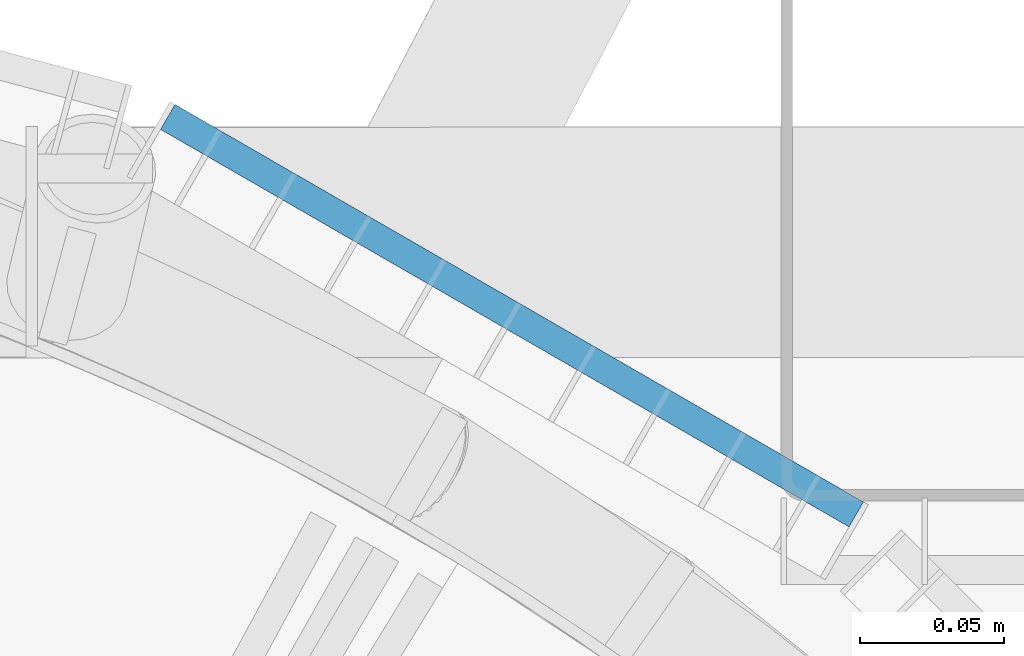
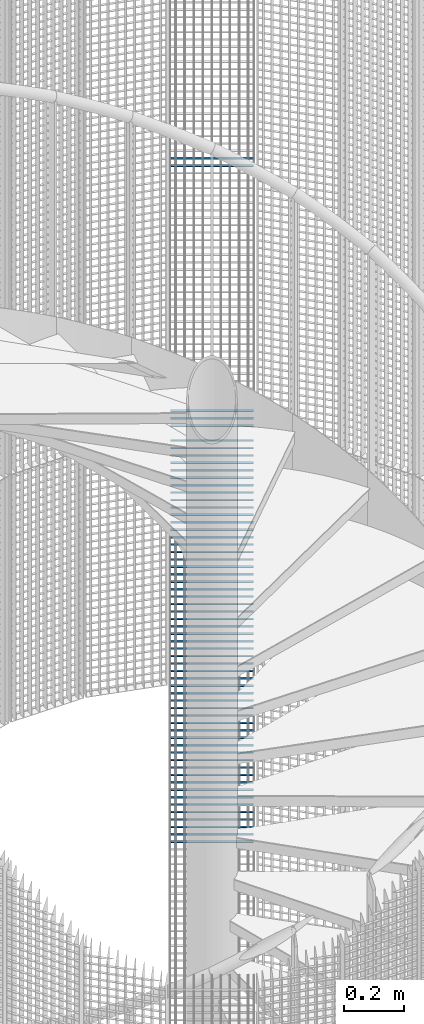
# One storey, part 320 of 1148: 60 beams, 2 elements without a shape of their own.
"""IFC2X3 building model written with IfcOpenShell, lengths in millimetres."""

from ifc_helpers import new_model, si_unit, frame, origin_with_axes, origin_2d_with_axis, place, context, subcontext, project, spatial, rectangle, extrude, material, type_object, element, aggregate, save


model = new_model("IFC2X3")

# Units and contexts
model_context = context("Model", 3, precision=1e-05, world=origin_with_axes())
body_context = subcontext(model_context, "Body", "Model", "MODEL_VIEW")
ifc_project = project(units=[si_unit("LENGTHUNIT", "METRE", prefix="MILLI"), si_unit("AREAUNIT", "SQUARE_METRE"), si_unit("VOLUMEUNIT", "CUBIC_METRE"), si_unit("MASSUNIT", "GRAM", prefix="KILO"), si_unit("TIMEUNIT", "SECOND"), si_unit("PLANEANGLEUNIT", "RADIAN"), si_unit("SOLIDANGLEUNIT", "STERADIAN"), si_unit("THERMODYNAMICTEMPERATUREUNIT", "DEGREE_CELSIUS"), si_unit("LUMINOUSINTENSITYUNIT", "LUMEN")], contexts=[model_context])

# Site, building, storey
site_placement = place(None, origin_with_axes())
site = spatial("IfcSite", under=ifc_project, at=site_placement, Name="Undefined", CompositionType="ELEMENT")
building_placement = place(site_placement, origin_with_axes())
building = spatial("IfcBuilding", under=site, at=building_placement, Name="Undefined", CompositionType="ELEMENT")
storey_placement = place(building_placement, origin_with_axes())
storey = spatial("IfcBuildingStorey", under=building, at=storey_placement, Name="Undefined", CompositionType="ELEMENT", Elevation=0.0)

# Assembly, beams
assembly_1_placement = place(storey_placement, origin_with_axes())
assembly_1 = element("IfcElementAssembly", 1, at=assembly_1_placement, inside=storey, Name="BORDURE", AssemblyPlace="NOTDEFINED", PredefinedType="NOTDEFINED")
ifc_material = material(Name="STEEL/S235JR")
beam_type = type_object("IfcBeamType", Name="PL2*10", PredefinedType="NOTDEFINED")
beam_1_placement = place(assembly_1_placement, frame((676.248044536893, 895.303964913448, 4080.0), z_axis=(0.49999999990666, 0.866025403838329, 0.0), x_axis=(-0.866025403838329, 0.499999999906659, 0.0)))
beam_1 = element("IfcBeam", 2, at=beam_1_placement, type_object=beam_type, material=ifc_material, Name="ENTRETOISE", context=body_context, shape_type="SweptSolid", body=[
    extrude(rectangle(XDim=2.0, YDim=10.0, at=origin_2d_with_axis()), frame((275.999999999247, 9.09494701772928e-13, 1.53210777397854e-14), z_axis=(-1.0, 0.0, 0.0), x_axis=(0.0, -1.0, 0.0)), (0.0, 0.0, 1.0), 276.0),
])
beam_2_placement = place(assembly_1_placement, frame((676.24804453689, 895.30396491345, 3090.0), z_axis=(0.49999999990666, 0.866025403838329, 0.0), x_axis=(-0.866025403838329, 0.499999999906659, 0.0)))
beam_2 = element("IfcBeam", 3, at=beam_2_placement, type_object=beam_type, material=ifc_material, Name="ENTRETOISE", context=body_context, shape_type="SweptSolid", body=[
    extrude(rectangle(XDim=2.0, YDim=10.0, at=origin_2d_with_axis()), frame((275.999999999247, 9.09494701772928e-13, 1.53210777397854e-14), z_axis=(-1.0, 0.0, 0.0), x_axis=(0.0, -1.0, 0.0)), (0.0, 0.0, 1.0), 276.0),
])
beam_3_placement = place(assembly_1_placement, frame((676.24804453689, 895.30396491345, 3060.0), z_axis=(0.49999999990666, 0.866025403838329, 0.0), x_axis=(-0.866025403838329, 0.499999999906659, 0.0)))
beam_3 = element("IfcBeam", 4, at=beam_3_placement, type_object=beam_type, material=ifc_material, Name="ENTRETOISE", context=body_context, shape_type="SweptSolid", body=[
    extrude(rectangle(XDim=2.0, YDim=10.0, at=origin_2d_with_axis()), frame((275.999999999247, 9.09494701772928e-13, 1.53210777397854e-14), z_axis=(-1.0, 0.0, 0.0), x_axis=(0.0, -1.0, 0.0)), (0.0, 0.0, 1.0), 276.0),
])
beam_4_placement = place(assembly_1_placement, frame((676.248044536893, 895.303964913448, 4110.0), z_axis=(0.49999999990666, 0.866025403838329, 0.0), x_axis=(-0.866025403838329, 0.499999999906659, 0.0)))
beam_4 = element("IfcBeam", 5, at=beam_4_placement, type_object=beam_type, material=ifc_material, Name="ENTRETOISE", context=body_context, shape_type="SweptSolid", body=[
    extrude(rectangle(XDim=2.0, YDim=10.0, at=origin_2d_with_axis()), frame((275.999999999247, 9.09494701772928e-13, 1.53210777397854e-14), z_axis=(-1.0, 0.0, 0.0), x_axis=(0.0, -1.0, 0.0)), (0.0, 0.0, 1.0), 276.0),
])
beam_5_placement = place(assembly_1_placement, frame((676.248044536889, 895.30396491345, 3030.0), z_axis=(0.49999999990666, 0.866025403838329, 0.0), x_axis=(-0.866025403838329, 0.499999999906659, 0.0)))
beam_5 = element("IfcBeam", 6, at=beam_5_placement, type_object=beam_type, material=ifc_material, Name="ENTRETOISE", context=body_context, shape_type="SweptSolid", body=[
    extrude(rectangle(XDim=2.0, YDim=10.0, at=origin_2d_with_axis()), frame((275.999999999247, 9.09494701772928e-13, 1.53210777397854e-14), z_axis=(-1.0, 0.0, 0.0), x_axis=(0.0, -1.0, 0.0)), (0.0, 0.0, 1.0), 276.0),
])
aggregate(assembly_1, [beam_1, beam_2, beam_3, beam_4, beam_5])

assembly_2_placement = place(storey_placement, origin_with_axes())
assembly_2 = element("IfcElementAssembly", 7, at=assembly_2_placement, inside=storey, Name="BORDURE", AssemblyPlace="NOTDEFINED", PredefinedType="NOTDEFINED")
beam_6_placement = place(assembly_2_placement, frame((676.248044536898, 895.303964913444, 2970.0), z_axis=(0.49999999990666, 0.866025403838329, 0.0), x_axis=(-0.866025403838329, 0.499999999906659, 0.0)))
beam_6 = element("IfcBeam", 8, at=beam_6_placement, type_object=beam_type, material=ifc_material, Name="ENTRETOISE", context=body_context, shape_type="SweptSolid", body=[
    extrude(rectangle(XDim=2.0, YDim=10.0, at=origin_2d_with_axis()), frame((275.999999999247, 9.09494701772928e-13, 1.53210777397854e-14), z_axis=(-1.0, 0.0, 0.0), x_axis=(0.0, -1.0, 0.0)), (0.0, 0.0, 1.0), 276.0),
])
beam_7_placement = place(assembly_2_placement, frame((676.248044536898, 895.303964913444, 2940.0), z_axis=(0.49999999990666, 0.866025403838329, 0.0), x_axis=(-0.866025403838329, 0.499999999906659, 0.0)))
beam_7 = element("IfcBeam", 9, at=beam_7_placement, type_object=beam_type, material=ifc_material, Name="ENTRETOISE", context=body_context, shape_type="SweptSolid", body=[
    extrude(rectangle(XDim=2.0, YDim=10.0, at=origin_2d_with_axis()), frame((275.999999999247, 9.09494701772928e-13, 1.53210777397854e-14), z_axis=(-1.0, 0.0, 0.0), x_axis=(0.0, -1.0, 0.0)), (0.0, 0.0, 1.0), 276.0),
])
beam_8_placement = place(assembly_2_placement, frame((676.248044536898, 895.303964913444, 2910.0), z_axis=(0.49999999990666, 0.866025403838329, 0.0), x_axis=(-0.866025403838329, 0.499999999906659, 0.0)))
beam_8 = element("IfcBeam", 10, at=beam_8_placement, type_object=beam_type, material=ifc_material, Name="ENTRETOISE", context=body_context, shape_type="SweptSolid", body=[
    extrude(rectangle(XDim=2.0, YDim=10.0, at=origin_2d_with_axis()), frame((275.999999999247, 9.09494701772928e-13, 1.53210777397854e-14), z_axis=(-1.0, 0.0, 0.0), x_axis=(0.0, -1.0, 0.0)), (0.0, 0.0, 1.0), 276.0),
])
beam_9_placement = place(assembly_2_placement, frame((676.248044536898, 895.303964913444, 2880.0), z_axis=(0.49999999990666, 0.866025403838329, 0.0), x_axis=(-0.866025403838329, 0.499999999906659, 0.0)))
beam_9 = element("IfcBeam", 11, at=beam_9_placement, type_object=beam_type, material=ifc_material, Name="ENTRETOISE", context=body_context, shape_type="SweptSolid", body=[
    extrude(rectangle(XDim=2.0, YDim=10.0, at=origin_2d_with_axis()), frame((275.999999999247, 9.09494701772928e-13, 1.53210777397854e-14), z_axis=(-1.0, 0.0, 0.0), x_axis=(0.0, -1.0, 0.0)), (0.0, 0.0, 1.0), 276.0),
])
beam_10_placement = place(assembly_2_placement, frame((676.248044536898, 895.303964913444, 2850.0), z_axis=(0.49999999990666, 0.866025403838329, 0.0), x_axis=(-0.866025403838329, 0.499999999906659, 0.0)))
beam_10 = element("IfcBeam", 12, at=beam_10_placement, type_object=beam_type, material=ifc_material, Name="ENTRETOISE", context=body_context, shape_type="SweptSolid", body=[
    extrude(rectangle(XDim=2.0, YDim=10.0, at=origin_2d_with_axis()), frame((275.999999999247, 9.09494701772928e-13, 1.53210777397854e-14), z_axis=(-1.0, 0.0, 0.0), x_axis=(0.0, -1.0, 0.0)), (0.0, 0.0, 1.0), 276.0),
])
beam_11_placement = place(assembly_2_placement, frame((676.248044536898, 895.303964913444, 2820.0), z_axis=(0.49999999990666, 0.866025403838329, 0.0), x_axis=(-0.866025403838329, 0.499999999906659, 0.0)))
beam_11 = element("IfcBeam", 13, at=beam_11_placement, type_object=beam_type, material=ifc_material, Name="ENTRETOISE", context=body_context, shape_type="SweptSolid", body=[
    extrude(rectangle(XDim=2.0, YDim=10.0, at=origin_2d_with_axis()), frame((275.999999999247, 9.09494701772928e-13, 1.53210777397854e-14), z_axis=(-1.0, 0.0, 0.0), x_axis=(0.0, -1.0, 0.0)), (0.0, 0.0, 1.0), 276.0),
])
beam_12_placement = place(assembly_2_placement, frame((676.248044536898, 895.303964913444, 2790.0), z_axis=(0.49999999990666, 0.866025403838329, 0.0), x_axis=(-0.866025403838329, 0.499999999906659, 0.0)))
beam_12 = element("IfcBeam", 14, at=beam_12_placement, type_object=beam_type, material=ifc_material, Name="ENTRETOISE", context=body_context, shape_type="SweptSolid", body=[
    extrude(rectangle(XDim=2.0, YDim=10.0, at=origin_2d_with_axis()), frame((275.999999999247, 9.09494701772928e-13, 1.53210777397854e-14), z_axis=(-1.0, 0.0, 0.0), x_axis=(0.0, -1.0, 0.0)), (0.0, 0.0, 1.0), 276.0),
])
beam_13_placement = place(assembly_2_placement, frame((676.248044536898, 895.303964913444, 2760.0), z_axis=(0.49999999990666, 0.866025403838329, 0.0), x_axis=(-0.866025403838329, 0.499999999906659, 0.0)))
beam_13 = element("IfcBeam", 15, at=beam_13_placement, type_object=beam_type, material=ifc_material, Name="ENTRETOISE", context=body_context, shape_type="SweptSolid", body=[
    extrude(rectangle(XDim=2.0, YDim=10.0, at=origin_2d_with_axis()), frame((275.999999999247, 9.09494701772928e-13, 1.53210777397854e-14), z_axis=(-1.0, 0.0, 0.0), x_axis=(0.0, -1.0, 0.0)), (0.0, 0.0, 1.0), 276.0),
])
beam_14_placement = place(assembly_2_placement, frame((676.248044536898, 895.303964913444, 2730.0), z_axis=(0.49999999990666, 0.866025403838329, 0.0), x_axis=(-0.866025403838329, 0.499999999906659, 0.0)))
beam_14 = element("IfcBeam", 16, at=beam_14_placement, type_object=beam_type, material=ifc_material, Name="ENTRETOISE", context=body_context, shape_type="SweptSolid", body=[
    extrude(rectangle(XDim=2.0, YDim=10.0, at=origin_2d_with_axis()), frame((275.999999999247, 9.09494701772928e-13, 1.53210777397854e-14), z_axis=(-1.0, 0.0, 0.0), x_axis=(0.0, -1.0, 0.0)), (0.0, 0.0, 1.0), 276.0),
])
beam_15_placement = place(assembly_2_placement, frame((676.248044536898, 895.303964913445, 2700.0), z_axis=(0.49999999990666, 0.866025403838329, 0.0), x_axis=(-0.866025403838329, 0.499999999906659, 0.0)))
beam_15 = element("IfcBeam", 17, at=beam_15_placement, type_object=beam_type, material=ifc_material, Name="ENTRETOISE", context=body_context, shape_type="SweptSolid", body=[
    extrude(rectangle(XDim=2.0, YDim=10.0, at=origin_2d_with_axis()), frame((275.999999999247, 9.09494701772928e-13, 1.53210777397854e-14), z_axis=(-1.0, 0.0, 0.0), x_axis=(0.0, -1.0, 0.0)), (0.0, 0.0, 1.0), 276.0),
])
beam_16_placement = place(assembly_2_placement, frame((676.248044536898, 895.303964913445, 2670.0), z_axis=(0.49999999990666, 0.866025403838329, 0.0), x_axis=(-0.866025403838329, 0.499999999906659, 0.0)))
beam_16 = element("IfcBeam", 18, at=beam_16_placement, type_object=beam_type, material=ifc_material, Name="ENTRETOISE", context=body_context, shape_type="SweptSolid", body=[
    extrude(rectangle(XDim=2.0, YDim=10.0, at=origin_2d_with_axis()), frame((275.999999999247, 9.09494701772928e-13, 1.53210777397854e-14), z_axis=(-1.0, 0.0, 0.0), x_axis=(0.0, -1.0, 0.0)), (0.0, 0.0, 1.0), 276.0),
])
beam_17_placement = place(assembly_2_placement, frame((676.248044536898, 895.303964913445, 2640.0), z_axis=(0.49999999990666, 0.866025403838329, 0.0), x_axis=(-0.866025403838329, 0.499999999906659, 0.0)))
beam_17 = element("IfcBeam", 19, at=beam_17_placement, type_object=beam_type, material=ifc_material, Name="ENTRETOISE", context=body_context, shape_type="SweptSolid", body=[
    extrude(rectangle(XDim=2.0, YDim=10.0, at=origin_2d_with_axis()), frame((275.999999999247, 9.09494701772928e-13, 1.53210777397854e-14), z_axis=(-1.0, 0.0, 0.0), x_axis=(0.0, -1.0, 0.0)), (0.0, 0.0, 1.0), 276.0),
])
beam_18_placement = place(assembly_2_placement, frame((676.248044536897, 895.303964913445, 2610.0), z_axis=(0.49999999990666, 0.866025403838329, 0.0), x_axis=(-0.866025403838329, 0.499999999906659, 0.0)))
beam_18 = element("IfcBeam", 20, at=beam_18_placement, type_object=beam_type, material=ifc_material, Name="ENTRETOISE", context=body_context, shape_type="SweptSolid", body=[
    extrude(rectangle(XDim=2.0, YDim=10.0, at=origin_2d_with_axis()), frame((275.999999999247, 9.09494701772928e-13, 1.53210777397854e-14), z_axis=(-1.0, 0.0, 0.0), x_axis=(0.0, -1.0, 0.0)), (0.0, 0.0, 1.0), 276.0),
])
beam_19_placement = place(assembly_2_placement, frame((676.248044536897, 895.303964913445, 2580.0), z_axis=(0.49999999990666, 0.866025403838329, 0.0), x_axis=(-0.866025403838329, 0.499999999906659, 0.0)))
beam_19 = element("IfcBeam", 21, at=beam_19_placement, type_object=beam_type, material=ifc_material, Name="ENTRETOISE", context=body_context, shape_type="SweptSolid", body=[
    extrude(rectangle(XDim=2.0, YDim=10.0, at=origin_2d_with_axis()), frame((275.999999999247, 9.09494701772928e-13, 1.53210777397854e-14), z_axis=(-1.0, 0.0, 0.0), x_axis=(0.0, -1.0, 0.0)), (0.0, 0.0, 1.0), 276.0),
])
beam_20_placement = place(assembly_2_placement, frame((676.248044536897, 895.303964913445, 2550.0), z_axis=(0.49999999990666, 0.866025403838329, 0.0), x_axis=(-0.866025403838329, 0.499999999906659, 0.0)))
beam_20 = element("IfcBeam", 22, at=beam_20_placement, type_object=beam_type, material=ifc_material, Name="ENTRETOISE", context=body_context, shape_type="SweptSolid", body=[
    extrude(rectangle(XDim=2.0, YDim=10.0, at=origin_2d_with_axis()), frame((275.999999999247, 9.09494701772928e-13, 1.53210777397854e-14), z_axis=(-1.0, 0.0, 0.0), x_axis=(0.0, -1.0, 0.0)), (0.0, 0.0, 1.0), 276.0),
])
beam_21_placement = place(assembly_2_placement, frame((676.248044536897, 895.303964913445, 2520.0), z_axis=(0.49999999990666, 0.866025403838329, 0.0), x_axis=(-0.866025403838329, 0.499999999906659, 0.0)))
beam_21 = element("IfcBeam", 23, at=beam_21_placement, type_object=beam_type, material=ifc_material, Name="ENTRETOISE", context=body_context, shape_type="SweptSolid", body=[
    extrude(rectangle(XDim=2.0, YDim=10.0, at=origin_2d_with_axis()), frame((275.999999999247, 9.09494701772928e-13, 1.53210777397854e-14), z_axis=(-1.0, 0.0, 0.0), x_axis=(0.0, -1.0, 0.0)), (0.0, 0.0, 1.0), 276.0),
])
beam_22_placement = place(assembly_2_placement, frame((676.248044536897, 895.303964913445, 2490.0), z_axis=(0.49999999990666, 0.866025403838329, 0.0), x_axis=(-0.866025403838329, 0.499999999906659, 0.0)))
beam_22 = element("IfcBeam", 24, at=beam_22_placement, type_object=beam_type, material=ifc_material, Name="ENTRETOISE", context=body_context, shape_type="SweptSolid", body=[
    extrude(rectangle(XDim=2.0, YDim=10.0, at=origin_2d_with_axis()), frame((275.999999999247, 9.09494701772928e-13, 1.53210777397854e-14), z_axis=(-1.0, 0.0, 0.0), x_axis=(0.0, -1.0, 0.0)), (0.0, 0.0, 1.0), 276.0),
])
beam_23_placement = place(assembly_2_placement, frame((676.248044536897, 895.303964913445, 2460.0), z_axis=(0.49999999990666, 0.866025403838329, 0.0), x_axis=(-0.866025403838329, 0.499999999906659, 0.0)))
beam_23 = element("IfcBeam", 25, at=beam_23_placement, type_object=beam_type, material=ifc_material, Name="ENTRETOISE", context=body_context, shape_type="SweptSolid", body=[
    extrude(rectangle(XDim=2.0, YDim=10.0, at=origin_2d_with_axis()), frame((275.999999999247, 9.09494701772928e-13, 1.53210777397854e-14), z_axis=(-1.0, 0.0, 0.0), x_axis=(0.0, -1.0, 0.0)), (0.0, 0.0, 1.0), 276.0),
])
beam_24_placement = place(assembly_2_placement, frame((676.248044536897, 895.303964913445, 2430.0), z_axis=(0.49999999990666, 0.866025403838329, 0.0), x_axis=(-0.866025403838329, 0.499999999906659, 0.0)))
beam_24 = element("IfcBeam", 26, at=beam_24_placement, type_object=beam_type, material=ifc_material, Name="ENTRETOISE", context=body_context, shape_type="SweptSolid", body=[
    extrude(rectangle(XDim=2.0, YDim=10.0, at=origin_2d_with_axis()), frame((275.999999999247, 9.09494701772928e-13, 1.53210777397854e-14), z_axis=(-1.0, 0.0, 0.0), x_axis=(0.0, -1.0, 0.0)), (0.0, 0.0, 1.0), 276.0),
])
beam_25_placement = place(assembly_2_placement, frame((676.248044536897, 895.303964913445, 2400.0), z_axis=(0.49999999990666, 0.866025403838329, 0.0), x_axis=(-0.866025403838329, 0.499999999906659, 0.0)))
beam_25 = element("IfcBeam", 27, at=beam_25_placement, type_object=beam_type, material=ifc_material, Name="ENTRETOISE", context=body_context, shape_type="SweptSolid", body=[
    extrude(rectangle(XDim=2.0, YDim=10.0, at=origin_2d_with_axis()), frame((275.999999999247, 9.09494701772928e-13, 1.53210777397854e-14), z_axis=(-1.0, 0.0, 0.0), x_axis=(0.0, -1.0, 0.0)), (0.0, 0.0, 1.0), 276.0),
])
beam_26_placement = place(assembly_2_placement, frame((676.248044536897, 895.303964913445, 2370.0), z_axis=(0.49999999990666, 0.866025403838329, 0.0), x_axis=(-0.866025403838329, 0.499999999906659, 0.0)))
beam_26 = element("IfcBeam", 28, at=beam_26_placement, type_object=beam_type, material=ifc_material, Name="ENTRETOISE", context=body_context, shape_type="SweptSolid", body=[
    extrude(rectangle(XDim=2.0, YDim=10.0, at=origin_2d_with_axis()), frame((275.999999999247, 9.09494701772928e-13, 1.53210777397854e-14), z_axis=(-1.0, 0.0, 0.0), x_axis=(0.0, -1.0, 0.0)), (0.0, 0.0, 1.0), 276.0),
])
beam_27_placement = place(assembly_2_placement, frame((676.248044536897, 895.303964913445, 2340.0), z_axis=(0.49999999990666, 0.866025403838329, 0.0), x_axis=(-0.866025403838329, 0.499999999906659, 0.0)))
beam_27 = element("IfcBeam", 29, at=beam_27_placement, type_object=beam_type, material=ifc_material, Name="ENTRETOISE", context=body_context, shape_type="SweptSolid", body=[
    extrude(rectangle(XDim=2.0, YDim=10.0, at=origin_2d_with_axis()), frame((275.999999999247, 9.09494701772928e-13, 1.53210777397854e-14), z_axis=(-1.0, 0.0, 0.0), x_axis=(0.0, -1.0, 0.0)), (0.0, 0.0, 1.0), 276.0),
])
beam_28_placement = place(assembly_2_placement, frame((676.248044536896, 895.303964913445, 2310.0), z_axis=(0.49999999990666, 0.866025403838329, 0.0), x_axis=(-0.866025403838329, 0.499999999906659, 0.0)))
beam_28 = element("IfcBeam", 30, at=beam_28_placement, type_object=beam_type, material=ifc_material, Name="ENTRETOISE", context=body_context, shape_type="SweptSolid", body=[
    extrude(rectangle(XDim=2.0, YDim=10.0, at=origin_2d_with_axis()), frame((275.999999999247, 9.09494701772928e-13, 1.53210777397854e-14), z_axis=(-1.0, 0.0, 0.0), x_axis=(0.0, -1.0, 0.0)), (0.0, 0.0, 1.0), 276.0),
])
beam_29_placement = place(assembly_2_placement, frame((676.248044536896, 895.303964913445, 2280.0), z_axis=(0.49999999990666, 0.866025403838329, 0.0), x_axis=(-0.866025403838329, 0.499999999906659, 0.0)))
beam_29 = element("IfcBeam", 31, at=beam_29_placement, type_object=beam_type, material=ifc_material, Name="ENTRETOISE", context=body_context, shape_type="SweptSolid", body=[
    extrude(rectangle(XDim=2.0, YDim=10.0, at=origin_2d_with_axis()), frame((275.999999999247, 9.09494701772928e-13, 1.53210777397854e-14), z_axis=(-1.0, 0.0, 0.0), x_axis=(0.0, -1.0, 0.0)), (0.0, 0.0, 1.0), 276.0),
])
beam_30_placement = place(assembly_2_placement, frame((676.248044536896, 895.303964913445, 2250.0), z_axis=(0.49999999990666, 0.866025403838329, 0.0), x_axis=(-0.866025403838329, 0.499999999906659, 0.0)))
beam_30 = element("IfcBeam", 32, at=beam_30_placement, type_object=beam_type, material=ifc_material, Name="ENTRETOISE", context=body_context, shape_type="SweptSolid", body=[
    extrude(rectangle(XDim=2.0, YDim=10.0, at=origin_2d_with_axis()), frame((275.999999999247, 9.09494701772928e-13, 1.53210777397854e-14), z_axis=(-1.0, 0.0, 0.0), x_axis=(0.0, -1.0, 0.0)), (0.0, 0.0, 1.0), 276.0),
])
beam_31_placement = place(assembly_2_placement, frame((676.248044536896, 895.303964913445, 2220.0), z_axis=(0.49999999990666, 0.866025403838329, 0.0), x_axis=(-0.866025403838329, 0.499999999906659, 0.0)))
beam_31 = element("IfcBeam", 33, at=beam_31_placement, type_object=beam_type, material=ifc_material, Name="ENTRETOISE", context=body_context, shape_type="SweptSolid", body=[
    extrude(rectangle(XDim=2.0, YDim=10.0, at=origin_2d_with_axis()), frame((275.999999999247, 9.09494701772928e-13, 1.53210777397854e-14), z_axis=(-1.0, 0.0, 0.0), x_axis=(0.0, -1.0, 0.0)), (0.0, 0.0, 1.0), 276.0),
])
beam_32_placement = place(assembly_2_placement, frame((676.248044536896, 895.303964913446, 2190.0), z_axis=(0.49999999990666, 0.866025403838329, 0.0), x_axis=(-0.866025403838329, 0.499999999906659, 0.0)))
beam_32 = element("IfcBeam", 34, at=beam_32_placement, type_object=beam_type, material=ifc_material, Name="ENTRETOISE", context=body_context, shape_type="SweptSolid", body=[
    extrude(rectangle(XDim=2.0, YDim=10.0, at=origin_2d_with_axis()), frame((275.999999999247, 9.09494701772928e-13, 1.53210777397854e-14), z_axis=(-1.0, 0.0, 0.0), x_axis=(0.0, -1.0, 0.0)), (0.0, 0.0, 1.0), 276.0),
])
beam_33_placement = place(assembly_2_placement, frame((676.248044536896, 895.303964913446, 2160.0), z_axis=(0.49999999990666, 0.866025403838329, 0.0), x_axis=(-0.866025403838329, 0.499999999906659, 0.0)))
beam_33 = element("IfcBeam", 35, at=beam_33_placement, type_object=beam_type, material=ifc_material, Name="ENTRETOISE", context=body_context, shape_type="SweptSolid", body=[
    extrude(rectangle(XDim=2.0, YDim=10.0, at=origin_2d_with_axis()), frame((275.999999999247, 9.09494701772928e-13, 1.53210777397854e-14), z_axis=(-1.0, 0.0, 0.0), x_axis=(0.0, -1.0, 0.0)), (0.0, 0.0, 1.0), 276.0),
])
beam_34_placement = place(assembly_2_placement, frame((676.248044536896, 895.303964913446, 2130.0), z_axis=(0.49999999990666, 0.866025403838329, 0.0), x_axis=(-0.866025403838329, 0.499999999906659, 0.0)))
beam_34 = element("IfcBeam", 36, at=beam_34_placement, type_object=beam_type, material=ifc_material, Name="ENTRETOISE", context=body_context, shape_type="SweptSolid", body=[
    extrude(rectangle(XDim=2.0, YDim=10.0, at=origin_2d_with_axis()), frame((275.999999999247, 9.09494701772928e-13, 1.53210777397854e-14), z_axis=(-1.0, 0.0, 0.0), x_axis=(0.0, -1.0, 0.0)), (0.0, 0.0, 1.0), 276.0),
])
beam_35_placement = place(assembly_2_placement, frame((676.248044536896, 895.303964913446, 2100.0), z_axis=(0.49999999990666, 0.866025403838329, 0.0), x_axis=(-0.866025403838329, 0.499999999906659, 0.0)))
beam_35 = element("IfcBeam", 37, at=beam_35_placement, type_object=beam_type, material=ifc_material, Name="ENTRETOISE", context=body_context, shape_type="SweptSolid", body=[
    extrude(rectangle(XDim=2.0, YDim=10.0, at=origin_2d_with_axis()), frame((275.999999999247, 9.09494701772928e-13, 1.53210777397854e-14), z_axis=(-1.0, 0.0, 0.0), x_axis=(0.0, -1.0, 0.0)), (0.0, 0.0, 1.0), 276.0),
])
beam_36_placement = place(assembly_2_placement, frame((676.248044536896, 895.303964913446, 2070.0), z_axis=(0.49999999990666, 0.866025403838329, 0.0), x_axis=(-0.866025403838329, 0.499999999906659, 0.0)))
beam_36 = element("IfcBeam", 38, at=beam_36_placement, type_object=beam_type, material=ifc_material, Name="ENTRETOISE", context=body_context, shape_type="SweptSolid", body=[
    extrude(rectangle(XDim=2.0, YDim=10.0, at=origin_2d_with_axis()), frame((275.999999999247, 9.09494701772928e-13, 1.53210777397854e-14), z_axis=(-1.0, 0.0, 0.0), x_axis=(0.0, -1.0, 0.0)), (0.0, 0.0, 1.0), 276.0),
])
beam_37_placement = place(assembly_2_placement, frame((676.248044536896, 895.303964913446, 2040.0), z_axis=(0.49999999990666, 0.866025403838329, 0.0), x_axis=(-0.866025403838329, 0.499999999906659, 0.0)))
beam_37 = element("IfcBeam", 39, at=beam_37_placement, type_object=beam_type, material=ifc_material, Name="ENTRETOISE", context=body_context, shape_type="SweptSolid", body=[
    extrude(rectangle(XDim=2.0, YDim=10.0, at=origin_2d_with_axis()), frame((275.999999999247, 9.09494701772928e-13, 1.53210777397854e-14), z_axis=(-1.0, 0.0, 0.0), x_axis=(0.0, -1.0, 0.0)), (0.0, 0.0, 1.0), 276.0),
])
beam_38_placement = place(assembly_2_placement, frame((676.248044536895, 895.303964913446, 2010.0), z_axis=(0.49999999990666, 0.866025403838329, 0.0), x_axis=(-0.866025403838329, 0.499999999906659, 0.0)))
beam_38 = element("IfcBeam", 40, at=beam_38_placement, type_object=beam_type, material=ifc_material, Name="ENTRETOISE", context=body_context, shape_type="SweptSolid", body=[
    extrude(rectangle(XDim=2.0, YDim=10.0, at=origin_2d_with_axis()), frame((275.999999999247, 9.09494701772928e-13, 1.53210777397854e-14), z_axis=(-1.0, 0.0, 0.0), x_axis=(0.0, -1.0, 0.0)), (0.0, 0.0, 1.0), 276.0),
])
beam_39_placement = place(assembly_2_placement, frame((676.248044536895, 895.303964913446, 1980.0), z_axis=(0.49999999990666, 0.866025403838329, 0.0), x_axis=(-0.866025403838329, 0.499999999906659, 0.0)))
beam_39 = element("IfcBeam", 41, at=beam_39_placement, type_object=beam_type, material=ifc_material, Name="ENTRETOISE", context=body_context, shape_type="SweptSolid", body=[
    extrude(rectangle(XDim=2.0, YDim=10.0, at=origin_2d_with_axis()), frame((275.999999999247, 9.09494701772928e-13, 1.53210777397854e-14), z_axis=(-1.0, 0.0, 0.0), x_axis=(0.0, -1.0, 0.0)), (0.0, 0.0, 1.0), 276.0),
])
beam_40_placement = place(assembly_2_placement, frame((676.248044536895, 895.303964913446, 1950.0), z_axis=(0.49999999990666, 0.866025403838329, 0.0), x_axis=(-0.866025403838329, 0.499999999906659, 0.0)))
beam_40 = element("IfcBeam", 42, at=beam_40_placement, type_object=beam_type, material=ifc_material, Name="ENTRETOISE", context=body_context, shape_type="SweptSolid", body=[
    extrude(rectangle(XDim=2.0, YDim=10.0, at=origin_2d_with_axis()), frame((275.999999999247, 9.09494701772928e-13, 1.53210777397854e-14), z_axis=(-1.0, 0.0, 0.0), x_axis=(0.0, -1.0, 0.0)), (0.0, 0.0, 1.0), 276.0),
])
beam_41_placement = place(assembly_2_placement, frame((676.248044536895, 895.303964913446, 1920.0), z_axis=(0.49999999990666, 0.866025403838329, 0.0), x_axis=(-0.866025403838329, 0.499999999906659, 0.0)))
beam_41 = element("IfcBeam", 43, at=beam_41_placement, type_object=beam_type, material=ifc_material, Name="ENTRETOISE", context=body_context, shape_type="SweptSolid", body=[
    extrude(rectangle(XDim=2.0, YDim=10.0, at=origin_2d_with_axis()), frame((275.999999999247, 9.09494701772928e-13, 1.53210777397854e-14), z_axis=(-1.0, 0.0, 0.0), x_axis=(0.0, -1.0, 0.0)), (0.0, 0.0, 1.0), 276.0),
])
beam_42_placement = place(assembly_2_placement, frame((676.248044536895, 895.303964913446, 1890.0), z_axis=(0.49999999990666, 0.866025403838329, 0.0), x_axis=(-0.866025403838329, 0.499999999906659, 0.0)))
beam_42 = element("IfcBeam", 44, at=beam_42_placement, type_object=beam_type, material=ifc_material, Name="ENTRETOISE", context=body_context, shape_type="SweptSolid", body=[
    extrude(rectangle(XDim=2.0, YDim=10.0, at=origin_2d_with_axis()), frame((275.999999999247, 9.09494701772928e-13, 1.53210777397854e-14), z_axis=(-1.0, 0.0, 0.0), x_axis=(0.0, -1.0, 0.0)), (0.0, 0.0, 1.0), 276.0),
])
beam_43_placement = place(assembly_2_placement, frame((676.248044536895, 895.303964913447, 1860.0), z_axis=(0.49999999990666, 0.866025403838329, 0.0), x_axis=(-0.866025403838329, 0.499999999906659, 0.0)))
beam_43 = element("IfcBeam", 45, at=beam_43_placement, type_object=beam_type, material=ifc_material, Name="ENTRETOISE", context=body_context, shape_type="SweptSolid", body=[
    extrude(rectangle(XDim=2.0, YDim=10.0, at=origin_2d_with_axis()), frame((275.999999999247, 9.09494701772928e-13, 1.53210777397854e-14), z_axis=(-1.0, 0.0, 0.0), x_axis=(0.0, -1.0, 0.0)), (0.0, 0.0, 1.0), 276.0),
])
beam_44_placement = place(assembly_2_placement, frame((676.248044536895, 895.303964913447, 1830.0), z_axis=(0.49999999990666, 0.866025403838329, 0.0), x_axis=(-0.866025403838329, 0.499999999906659, 0.0)))
beam_44 = element("IfcBeam", 46, at=beam_44_placement, type_object=beam_type, material=ifc_material, Name="ENTRETOISE", context=body_context, shape_type="SweptSolid", body=[
    extrude(rectangle(XDim=2.0, YDim=10.0, at=origin_2d_with_axis()), frame((275.999999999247, 9.09494701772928e-13, 1.53210777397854e-14), z_axis=(-1.0, 0.0, 0.0), x_axis=(0.0, -1.0, 0.0)), (0.0, 0.0, 1.0), 276.0),
])
beam_45_placement = place(assembly_2_placement, frame((676.248044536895, 895.303964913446, 1800.0), z_axis=(0.49999999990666, 0.866025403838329, 0.0), x_axis=(-0.866025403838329, 0.499999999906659, 0.0)))
beam_45 = element("IfcBeam", 47, at=beam_45_placement, type_object=beam_type, material=ifc_material, Name="ENTRETOISE", context=body_context, shape_type="SweptSolid", body=[
    extrude(rectangle(XDim=2.0, YDim=10.0, at=origin_2d_with_axis()), frame((275.999999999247, 9.09494701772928e-13, 1.53210777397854e-14), z_axis=(-1.0, 0.0, 0.0), x_axis=(0.0, -1.0, 0.0)), (0.0, 0.0, 1.0), 276.0),
])
beam_46_placement = place(assembly_2_placement, frame((676.248044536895, 895.303964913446, 1770.0), z_axis=(0.49999999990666, 0.866025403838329, 0.0), x_axis=(-0.866025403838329, 0.499999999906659, 0.0)))
beam_46 = element("IfcBeam", 48, at=beam_46_placement, type_object=beam_type, material=ifc_material, Name="ENTRETOISE", context=body_context, shape_type="SweptSolid", body=[
    extrude(rectangle(XDim=2.0, YDim=10.0, at=origin_2d_with_axis()), frame((275.999999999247, 9.09494701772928e-13, 1.53210777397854e-14), z_axis=(-1.0, 0.0, 0.0), x_axis=(0.0, -1.0, 0.0)), (0.0, 0.0, 1.0), 276.0),
])
beam_47_placement = place(assembly_2_placement, frame((676.248044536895, 895.303964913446, 1740.0), z_axis=(0.49999999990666, 0.866025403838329, 0.0), x_axis=(-0.866025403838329, 0.499999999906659, 0.0)))
beam_47 = element("IfcBeam", 49, at=beam_47_placement, type_object=beam_type, material=ifc_material, Name="ENTRETOISE", context=body_context, shape_type="SweptSolid", body=[
    extrude(rectangle(XDim=2.0, YDim=10.0, at=origin_2d_with_axis()), frame((275.999999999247, 9.09494701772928e-13, 1.53210777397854e-14), z_axis=(-1.0, 0.0, 0.0), x_axis=(0.0, -1.0, 0.0)), (0.0, 0.0, 1.0), 276.0),
])
beam_48_placement = place(assembly_2_placement, frame((676.248044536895, 895.303964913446, 1710.0), z_axis=(0.49999999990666, 0.866025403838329, 0.0), x_axis=(-0.866025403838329, 0.499999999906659, 0.0)))
beam_48 = element("IfcBeam", 50, at=beam_48_placement, type_object=beam_type, material=ifc_material, Name="ENTRETOISE", context=body_context, shape_type="SweptSolid", body=[
    extrude(rectangle(XDim=2.0, YDim=10.0, at=origin_2d_with_axis()), frame((275.999999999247, 9.09494701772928e-13, 1.53210777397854e-14), z_axis=(-1.0, 0.0, 0.0), x_axis=(0.0, -1.0, 0.0)), (0.0, 0.0, 1.0), 276.0),
])
beam_49_placement = place(assembly_2_placement, frame((676.248044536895, 895.303964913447, 1680.0), z_axis=(0.49999999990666, 0.866025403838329, 0.0), x_axis=(-0.866025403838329, 0.499999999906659, 0.0)))
beam_49 = element("IfcBeam", 51, at=beam_49_placement, type_object=beam_type, material=ifc_material, Name="ENTRETOISE", context=body_context, shape_type="SweptSolid", body=[
    extrude(rectangle(XDim=2.0, YDim=10.0, at=origin_2d_with_axis()), frame((275.999999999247, 9.09494701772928e-13, 1.53210777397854e-14), z_axis=(-1.0, 0.0, 0.0), x_axis=(0.0, -1.0, 0.0)), (0.0, 0.0, 1.0), 276.0),
])
beam_50_placement = place(assembly_2_placement, frame((676.248044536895, 895.303964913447, 1650.0), z_axis=(0.49999999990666, 0.866025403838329, 0.0), x_axis=(-0.866025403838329, 0.499999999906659, 0.0)))
beam_50 = element("IfcBeam", 52, at=beam_50_placement, type_object=beam_type, material=ifc_material, Name="ENTRETOISE", context=body_context, shape_type="SweptSolid", body=[
    extrude(rectangle(XDim=2.0, YDim=10.0, at=origin_2d_with_axis()), frame((275.999999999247, 9.09494701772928e-13, 1.53210777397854e-14), z_axis=(-1.0, 0.0, 0.0), x_axis=(0.0, -1.0, 0.0)), (0.0, 0.0, 1.0), 276.0),
])
beam_51_placement = place(assembly_2_placement, frame((676.248044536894, 895.303964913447, 1620.0), z_axis=(0.49999999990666, 0.866025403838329, 0.0), x_axis=(-0.866025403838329, 0.499999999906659, 0.0)))
beam_51 = element("IfcBeam", 53, at=beam_51_placement, type_object=beam_type, material=ifc_material, Name="ENTRETOISE", context=body_context, shape_type="SweptSolid", body=[
    extrude(rectangle(XDim=2.0, YDim=10.0, at=origin_2d_with_axis()), frame((275.999999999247, 9.09494701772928e-13, 1.53210777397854e-14), z_axis=(-1.0, 0.0, 0.0), x_axis=(0.0, -1.0, 0.0)), (0.0, 0.0, 1.0), 276.0),
])
beam_52_placement = place(assembly_2_placement, frame((676.248044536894, 895.303964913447, 1590.0), z_axis=(0.49999999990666, 0.866025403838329, 0.0), x_axis=(-0.866025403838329, 0.499999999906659, 0.0)))
beam_52 = element("IfcBeam", 54, at=beam_52_placement, type_object=beam_type, material=ifc_material, Name="ENTRETOISE", context=body_context, shape_type="SweptSolid", body=[
    extrude(rectangle(XDim=2.0, YDim=10.0, at=origin_2d_with_axis()), frame((275.999999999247, 9.09494701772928e-13, 1.53210777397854e-14), z_axis=(-1.0, 0.0, 0.0), x_axis=(0.0, -1.0, 0.0)), (0.0, 0.0, 1.0), 276.0),
])
beam_53_placement = place(assembly_2_placement, frame((676.248044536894, 895.303964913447, 1560.0), z_axis=(0.49999999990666, 0.866025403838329, 0.0), x_axis=(-0.866025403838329, 0.499999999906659, 0.0)))
beam_53 = element("IfcBeam", 55, at=beam_53_placement, type_object=beam_type, material=ifc_material, Name="ENTRETOISE", context=body_context, shape_type="SweptSolid", body=[
    extrude(rectangle(XDim=2.0, YDim=10.0, at=origin_2d_with_axis()), frame((275.999999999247, 9.09494701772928e-13, 1.53210777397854e-14), z_axis=(-1.0, 0.0, 0.0), x_axis=(0.0, -1.0, 0.0)), (0.0, 0.0, 1.0), 276.0),
])
beam_54_placement = place(assembly_2_placement, frame((676.248044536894, 895.303964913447, 1530.0), z_axis=(0.49999999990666, 0.866025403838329, 0.0), x_axis=(-0.866025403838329, 0.499999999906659, 0.0)))
beam_54 = element("IfcBeam", 56, at=beam_54_placement, type_object=beam_type, material=ifc_material, Name="ENTRETOISE", context=body_context, shape_type="SweptSolid", body=[
    extrude(rectangle(XDim=2.0, YDim=10.0, at=origin_2d_with_axis()), frame((275.999999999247, 9.09494701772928e-13, 1.53210777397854e-14), z_axis=(-1.0, 0.0, 0.0), x_axis=(0.0, -1.0, 0.0)), (0.0, 0.0, 1.0), 276.0),
])
beam_55_placement = place(assembly_2_placement, frame((676.248044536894, 895.303964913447, 1500.0), z_axis=(0.49999999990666, 0.866025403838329, 0.0), x_axis=(-0.866025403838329, 0.499999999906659, 0.0)))
beam_55 = element("IfcBeam", 57, at=beam_55_placement, type_object=beam_type, material=ifc_material, Name="ENTRETOISE", context=body_context, shape_type="SweptSolid", body=[
    extrude(rectangle(XDim=2.0, YDim=10.0, at=origin_2d_with_axis()), frame((275.999999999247, 9.09494701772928e-13, 1.53210777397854e-14), z_axis=(-1.0, 0.0, 0.0), x_axis=(0.0, -1.0, 0.0)), (0.0, 0.0, 1.0), 276.0),
])
beam_56_placement = place(assembly_2_placement, frame((676.248044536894, 895.303964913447, 1470.0), z_axis=(0.49999999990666, 0.866025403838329, 0.0), x_axis=(-0.866025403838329, 0.499999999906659, 0.0)))
beam_56 = element("IfcBeam", 58, at=beam_56_placement, type_object=beam_type, material=ifc_material, Name="ENTRETOISE", context=body_context, shape_type="SweptSolid", body=[
    extrude(rectangle(XDim=2.0, YDim=10.0, at=origin_2d_with_axis()), frame((275.999999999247, 9.09494701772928e-13, 1.53210777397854e-14), z_axis=(-1.0, 0.0, 0.0), x_axis=(0.0, -1.0, 0.0)), (0.0, 0.0, 1.0), 276.0),
])
beam_57_placement = place(assembly_2_placement, frame((676.248044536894, 895.303964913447, 1440.0), z_axis=(0.49999999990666, 0.866025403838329, 0.0), x_axis=(-0.866025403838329, 0.499999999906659, 0.0)))
beam_57 = element("IfcBeam", 59, at=beam_57_placement, type_object=beam_type, material=ifc_material, Name="ENTRETOISE", context=body_context, shape_type="SweptSolid", body=[
    extrude(rectangle(XDim=2.0, YDim=10.0, at=origin_2d_with_axis()), frame((275.999999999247, 9.09494701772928e-13, 1.53210777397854e-14), z_axis=(-1.0, 0.0, 0.0), x_axis=(0.0, -1.0, 0.0)), (0.0, 0.0, 1.0), 276.0),
])
beam_58_placement = place(assembly_2_placement, frame((676.248044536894, 895.303964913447, 1410.0), z_axis=(0.49999999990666, 0.866025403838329, 0.0), x_axis=(-0.866025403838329, 0.499999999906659, 0.0)))
beam_58 = element("IfcBeam", 60, at=beam_58_placement, type_object=beam_type, material=ifc_material, Name="ENTRETOISE", context=body_context, shape_type="SweptSolid", body=[
    extrude(rectangle(XDim=2.0, YDim=10.0, at=origin_2d_with_axis()), frame((275.999999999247, 9.09494701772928e-13, 1.53210777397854e-14), z_axis=(-1.0, 0.0, 0.0), x_axis=(0.0, -1.0, 0.0)), (0.0, 0.0, 1.0), 276.0),
])
beam_59_placement = place(assembly_2_placement, frame((676.248044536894, 895.303964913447, 1380.0), z_axis=(0.49999999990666, 0.866025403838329, 0.0), x_axis=(-0.866025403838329, 0.499999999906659, 0.0)))
beam_59 = element("IfcBeam", 61, at=beam_59_placement, type_object=beam_type, material=ifc_material, Name="ENTRETOISE", context=body_context, shape_type="SweptSolid", body=[
    extrude(rectangle(XDim=2.0, YDim=10.0, at=origin_2d_with_axis()), frame((275.999999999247, 9.09494701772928e-13, 1.53210777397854e-14), z_axis=(-1.0, 0.0, 0.0), x_axis=(0.0, -1.0, 0.0)), (0.0, 0.0, 1.0), 276.0),
])
beam_60_placement = place(assembly_2_placement, frame((676.248044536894, 895.303964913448, 1350.0), z_axis=(0.49999999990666, 0.866025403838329, 0.0), x_axis=(-0.866025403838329, 0.499999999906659, 0.0)))
beam_60 = element("IfcBeam", 62, at=beam_60_placement, type_object=beam_type, material=ifc_material, Name="ENTRETOISE", context=body_context, shape_type="SweptSolid", body=[
    extrude(rectangle(XDim=2.0, YDim=10.0, at=origin_2d_with_axis()), frame((275.999999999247, 9.09494701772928e-13, 1.53210777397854e-14), z_axis=(-1.0, 0.0, 0.0), x_axis=(0.0, -1.0, 0.0)), (0.0, 0.0, 1.0), 276.0),
])
aggregate(assembly_2, [beam_6, beam_7, beam_8, beam_9, beam_10, beam_11, beam_12, beam_13, beam_14, beam_15, beam_16, beam_17, beam_18, beam_19, beam_20, beam_21, beam_22, beam_23, beam_24, beam_25, beam_26, beam_27, beam_28, beam_29, beam_30, beam_31, beam_32, beam_33, beam_34, beam_35, beam_36, beam_37, beam_38, beam_39, beam_40, beam_41, beam_42, beam_43, beam_44, beam_45, beam_46, beam_47, beam_48, beam_49, beam_50, beam_51, beam_52, beam_53, beam_54, beam_55, beam_56, beam_57, beam_58, beam_59, beam_60])

save(model, "model.ifc")
